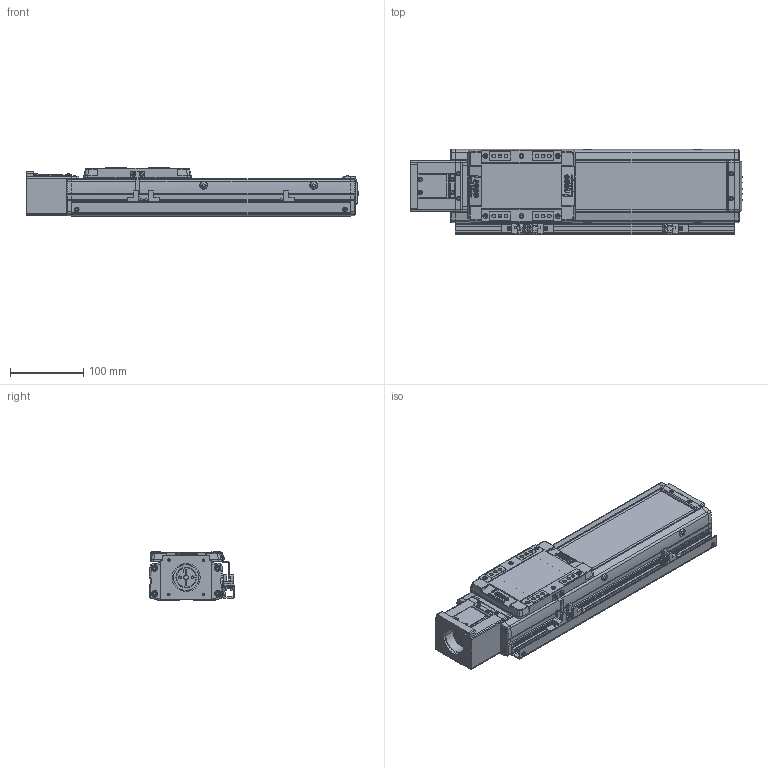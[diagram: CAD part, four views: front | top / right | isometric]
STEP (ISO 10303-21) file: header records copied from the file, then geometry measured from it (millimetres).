
FILE_DESCRIPTION(('STEP AP214'),'1');
FILE_NAME('Z:/Web/3D/SAN100/SAN100 양산용 (STEP)/SAN100ㅁㅁ-200S+3SR.stp','2013-04-25T00:45:51',(' '),(' '),'Spatial InterOp 3D',' ',' ');
FILE_SCHEMA(('automotive_design'));
Length unit declared in the file: millimetre
Products named in the file (58): EE-SX674; SBK-SX674-352; 스크루 : Round - M3.0 x 6.0; M3.0 x 6.0; SRL-16x17-380L; SGD-SAN100; MTHZ-SAN100-S56A; SDA26C-8-6.35; SSFX-SAN65; CPLCV-SAN65; 스크루 : Round - M4.0 x 10.0; FRCV-SAN100; SUS COVER; SFX-SAN100; RRCV-SAN100; FRBL-SAN100; SLBL-SAN100; SLCV-SAN100; 스크루 : Countersunk - M3.0 x 6.0; BASE; 스크루 : Round - M5.0 x 6.0
Bounding box: 452.5 x 116 x 66 mm (x, y, z)
Volume: 1416848.9 mm3; surface area: 417118.5 mm2
Topology: 58 solids, 59 shells, 2865 faces, 7522 edges, 4891 vertices
Faces by surface type: plane 1490, cylinder 1005, cone 233, sphere 72, torus 45, bspline 20
Entity records: 114456 total; most frequent: CARTESIAN_POINT 17698, DIRECTION 15886, ORIENTED_EDGE 14888, EDGE_CURVE 7444, AXIS2_PLACEMENT_3D 5714, VERTEX_POINT 4891, LINE 4458, VECTOR 4458
